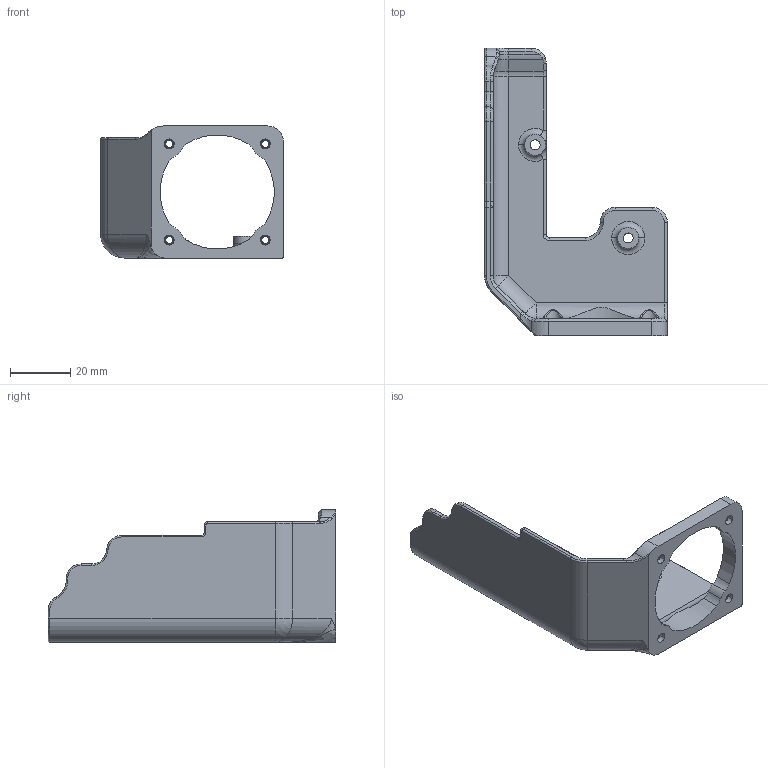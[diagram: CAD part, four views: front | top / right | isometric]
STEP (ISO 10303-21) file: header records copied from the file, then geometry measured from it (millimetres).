
FILE_DESCRIPTION(('CATIA V5 STEP Exchange'),'2;1');
FILE_NAME('E:\Dropbox\3D Printer Fan Duct Designs\1.) Artillery Sidewinder X1\3D Models\5015 Double Ducts\VOLCANO\BONUS_CLIP_DOUBLE FAN\COVER_MOTOR_DOUBLE-FAN\Cover Motor With Fan Insert.stp','2022-01-08T19:49:15+00:00',('none'),('none'),'CATIA Version 5 Release 20 SP 1 (IN-10)','CATIA V5 STEP AP214','none');
FILE_SCHEMA(('AUTOMOTIVE_DESIGN { 1 0 10303 214 1 1 1 1 }'));
Products named in the file (1): COVER_MOTORE_ESTRUSORE
Bounding box: 60.8 x 95.8 x 44 mm (x, y, z)
Volume: 21877 mm3; surface area: 16893.2 mm2
Topology: 5 solids, 5 shells, 2149 faces, 5717 edges, 3596 vertices
Faces by surface type: bspline 1438, cylinder 494, plane 124, cone 54, torus 23, extrusion 11, sphere 5
Entity records: 68979 total; most frequent: CARTESIAN_POINT 32265, ORIENTED_EDGE 11422, EDGE_CURVE 5711, VERTEX_POINT 3596, DIRECTION 2965, EDGE_LOOP 2195, ADVANCED_FACE 2149, FACE_OUTER_BOUND 2149
